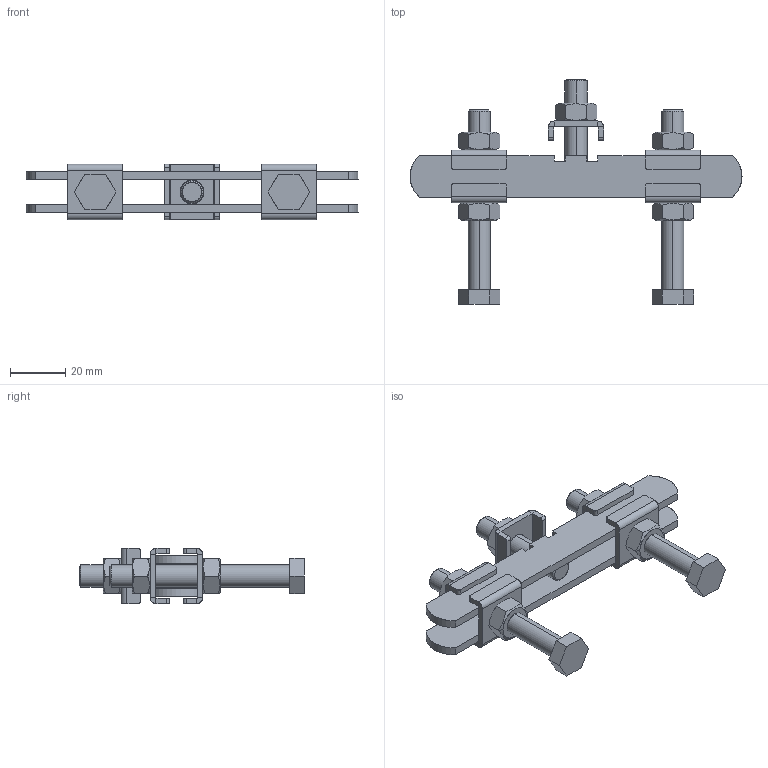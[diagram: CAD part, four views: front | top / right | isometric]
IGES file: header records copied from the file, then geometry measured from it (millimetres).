
Start section: SolidWorks IGES file using analytic representation for surfaces
Global section: file name: C:\Projetos\Ponteiras\PSD\PSD-M8.IGS; native system: SolidWorks 2011; preprocessor: SolidWorks 2011; author: Usuario; date: 110915.141249; units: millimetre
Bounding box: 120 x 81.3 x 20 mm (x, y, z)
Surface area: 23542.1 mm2 (no closed solid volume)
Topology: 0 solids, 0 shells, 294 faces, 3688 edges, 3688 vertices
Faces by surface type: bspline 174, revolution 120
